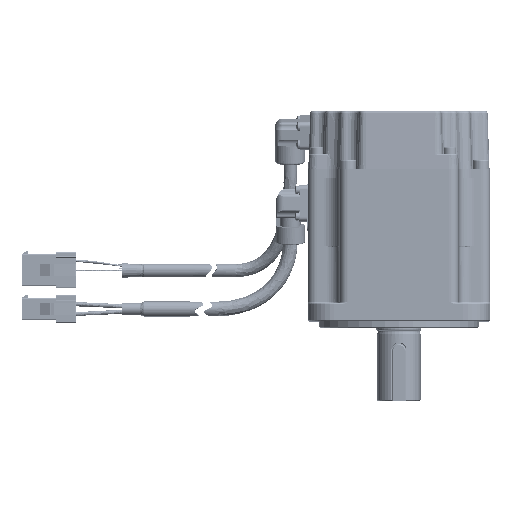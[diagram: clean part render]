
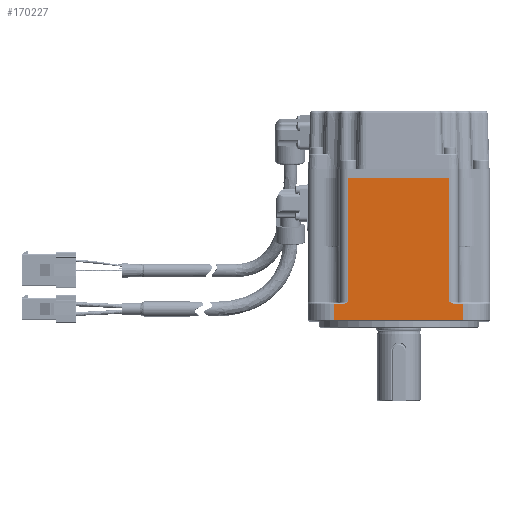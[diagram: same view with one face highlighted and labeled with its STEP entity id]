
A CAD part, top view. The second image highlights one B-rep face of the part: STEP entity #170227.
In plain terms, the highlighted planar face has unit normal (0, 0, 1) as drawn and (0, 0, -1) by its records, which use the part's own axes.
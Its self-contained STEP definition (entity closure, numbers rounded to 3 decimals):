
#1626 = CARTESIAN_POINT ( 'NONE',  ( -24.966, 10.5, -40. ) ) ;
#6138 = CARTESIAN_POINT ( 'NONE',  ( 22.137, 11.5, -40. ) ) ;
#9374 = CARTESIAN_POINT ( 'NONE',  ( 22.582, 11.262, -40. ) ) ;
#10986 = DIRECTION ( 'NONE',  ( -1., 0., 0. ) ) ;
#12206 = VERTEX_POINT ( 'NONE', #1626 ) ;
#29569 = CARTESIAN_POINT ( 'NONE',  ( 28.3, -110.437, -40. ) ) ;
#35684 = CARTESIAN_POINT ( 'NONE',  ( 24.461, 10.537, -40. ) ) ;
#36005 = VERTEX_POINT ( 'NONE', #238422 ) ;
#39457 = CARTESIAN_POINT ( 'NONE',  ( -24.71, 10.5, -40. ) ) ;
#40893 = EDGE_CURVE ( 'NONE', #68217, #319239, #189023, .T. ) ;
#42674 = CARTESIAN_POINT ( 'NONE',  ( -23.729, 10.739, -40. ) ) ;
#56738 = DIRECTION ( 'NONE',  ( 0., 1., 0. ) ) ;
#59466 = ORIENTED_EDGE ( 'NONE', *, *, #40893, .T. ) ;
#60680 = ORIENTED_EDGE ( 'NONE', *, *, #198062, .T. ) ;
#67372 = CARTESIAN_POINT ( 'NONE',  ( -22.137, 11.5, -40. ) ) ;
#68217 = VERTEX_POINT ( 'NONE', #111065 ) ;
#70935 = CARTESIAN_POINT ( 'NONE',  ( 28.3, 3.6, -40. ) ) ;
#71472 = CARTESIAN_POINT ( 'NONE',  ( -28.3, -110.437, -40. ) ) ;
#74439 = ORIENTED_EDGE ( 'NONE', *, *, #106228, .T. ) ;
#85622 = CARTESIAN_POINT ( 'NONE',  ( -23.97, 10.657, -40. ) ) ;
#86659 = FACE_OUTER_BOUND ( 'NONE', #94884, .T. ) ;
#88142 = ORIENTED_EDGE ( 'NONE', *, *, #312121, .T. ) ;
#88496 = ORIENTED_EDGE ( 'NONE', *, *, #251141, .F. ) ;
#93089 = CARTESIAN_POINT ( 'NONE',  ( -28.3, -110.437, -40. ) ) ;
#93667 = CARTESIAN_POINT ( 'NONE',  ( 28.3, 10.5, -40. ) ) ;
#94884 = EDGE_LOOP ( 'NONE', ( #88496, #88142, #167179, #59466, #277204, #199358, #323634, #74439, #298466, #60680 ) ) ;
#100884 = VERTEX_POINT ( 'NONE', #197819 ) ;
#101993 = DIRECTION ( 'NONE',  ( -1., 0., 0. ) ) ;
#104586 = LINE ( 'NONE', #155447, #136805 ) ;
#106228 = EDGE_CURVE ( 'NONE', #143524, #12206, #104586, .T. ) ;
#106456 = CARTESIAN_POINT ( 'NONE',  ( 23.97, 10.657, -40. ) ) ;
#109151 = VERTEX_POINT ( 'NONE', #153683 ) ;
#109846 = VERTEX_POINT ( 'NONE', #251126 ) ;
#111065 = CARTESIAN_POINT ( 'NONE',  ( 24.966, 10.5, -40. ) ) ;
#111840 = CARTESIAN_POINT ( 'NONE',  ( -22.582, 11.262, -40. ) ) ;
#119361 = VECTOR ( 'NONE', #136198, 1000. ) ;
#121683 = VERTEX_POINT ( 'NONE', #70935 ) ;
#123368 = EDGE_CURVE ( 'NONE', #36005, #143524, #197939, .T. ) ;
#128663 = VERTEX_POINT ( 'NONE', #249081 ) ;
#136198 = DIRECTION ( 'NONE',  ( 0., 1., 0. ) ) ;
#136758 = EDGE_CURVE ( 'NONE', #12206, #100884, #154744, .T. ) ;
#136805 = VECTOR ( 'NONE', #281927, 1000. ) ;
#139108 = PLANE ( 'NONE',  #267603 ) ;
#143524 = VERTEX_POINT ( 'NONE', #191744 ) ;
#150936 = VECTOR ( 'NONE', #170833, 1000. ) ;
#151553 = CARTESIAN_POINT ( 'NONE',  ( 22.137, 11., -40. ) ) ;
#153683 = CARTESIAN_POINT ( 'NONE',  ( -22.137, 65.9, -40. ) ) ;
#154744 = B_SPLINE_CURVE_WITH_KNOTS ( 'NONE', 3,
 ( #261326, #39457, #238338, #85622, #42674, #239942, #111840, #67372 ),
 .UNSPECIFIED., .F., .F.,
 ( 4, 2, 2, 4 ),
 ( 0., 0.001, 0.002, 0.003 ),
 .UNSPECIFIED. ) ;
#155447 = CARTESIAN_POINT ( 'NONE',  ( -22.137, 10.5, -40. ) ) ;
#160558 = CARTESIAN_POINT ( 'NONE',  ( 23.027, 11.023, -40. ) ) ;
#167179 = ORIENTED_EDGE ( 'NONE', *, *, #224172, .T. ) ;
#170227 = ADVANCED_FACE ( 'NONE', ( #86659 ), #139108, .T. ) ;
#170833 = DIRECTION ( 'NONE',  ( 1., 0., 0. ) ) ;
#180720 = LINE ( 'NONE', #29569, #119361 ) ;
#182102 = VECTOR ( 'NONE', #56738, 1000. ) ;
#186805 = CARTESIAN_POINT ( 'NONE',  ( 23.729, 10.739, -40. ) ) ;
#189023 = LINE ( 'NONE', #93667, #150936 ) ;
#191744 = CARTESIAN_POINT ( 'NONE',  ( -28.3, 10.5, -40. ) ) ;
#197647 = DIRECTION ( 'NONE',  ( 0., -1., 0. ) ) ;
#197819 = CARTESIAN_POINT ( 'NONE',  ( -22.137, 11.5, -40. ) ) ;
#197939 = LINE ( 'NONE', #71472, #266772 ) ;
#198062 = EDGE_CURVE ( 'NONE', #100884, #109151, #258762, .T. ) ;
#199358 = ORIENTED_EDGE ( 'NONE', *, *, #204622, .T. ) ;
#204622 = EDGE_CURVE ( 'NONE', #121683, #36005, #235838, .T. ) ;
#204992 = CARTESIAN_POINT ( 'NONE',  ( 28.3, 10.5, -40. ) ) ;
#212730 = CARTESIAN_POINT ( 'NONE',  ( -28.3, 3.6, -40. ) ) ;
#220660 = LINE ( 'NONE', #151553, #310096 ) ;
#221959 = CARTESIAN_POINT ( 'NONE',  ( -28.3, 65.9, -40. ) ) ;
#222698 = EDGE_CURVE ( 'NONE', #121683, #319239, #180720, .T. ) ;
#224172 = EDGE_CURVE ( 'NONE', #109846, #68217, #316139, .T. ) ;
#225830 = DIRECTION ( 'NONE',  ( 0., 1., 0. ) ) ;
#227216 = VECTOR ( 'NONE', #101993, 1000. ) ;
#235838 = LINE ( 'NONE', #212730, #239185 ) ;
#238338 = CARTESIAN_POINT ( 'NONE',  ( -24.461, 10.537, -40. ) ) ;
#238422 = CARTESIAN_POINT ( 'NONE',  ( -28.3, 3.6, -40. ) ) ;
#239014 = DIRECTION ( 'NONE',  ( -1., 0., 0. ) ) ;
#239185 = VECTOR ( 'NONE', #239014, 1000. ) ;
#239379 = DIRECTION ( 'NONE',  ( 0., 0., -1. ) ) ;
#239942 = CARTESIAN_POINT ( 'NONE',  ( -23.027, 11.023, -40. ) ) ;
#249081 = CARTESIAN_POINT ( 'NONE',  ( 22.137, 65.9, -40. ) ) ;
#251126 = CARTESIAN_POINT ( 'NONE',  ( 22.137, 11.5, -40. ) ) ;
#251141 = EDGE_CURVE ( 'NONE', #128663, #109151, #251439, .T. ) ;
#251439 = LINE ( 'NONE', #221959, #227216 ) ;
#255926 = CARTESIAN_POINT ( 'NONE',  ( 24.966, 10.5, -40. ) ) ;
#258762 = LINE ( 'NONE', #311213, #182102 ) ;
#261326 = CARTESIAN_POINT ( 'NONE',  ( -24.966, 10.5, -40. ) ) ;
#266772 = VECTOR ( 'NONE', #225830, 1000. ) ;
#267603 = AXIS2_PLACEMENT_3D ( 'NONE', #93089, #239379, #10986 ) ;
#277204 = ORIENTED_EDGE ( 'NONE', *, *, #222698, .F. ) ;
#281927 = DIRECTION ( 'NONE',  ( 1., 0., 0. ) ) ;
#285383 = CARTESIAN_POINT ( 'NONE',  ( 24.71, 10.5, -40. ) ) ;
#298466 = ORIENTED_EDGE ( 'NONE', *, *, #136758, .T. ) ;
#310096 = VECTOR ( 'NONE', #197647, 1000. ) ;
#311213 = CARTESIAN_POINT ( 'NONE',  ( -22.137, 15.7, -40. ) ) ;
#312121 = EDGE_CURVE ( 'NONE', #128663, #109846, #220660, .T. ) ;
#316139 = B_SPLINE_CURVE_WITH_KNOTS ( 'NONE', 3,
 ( #6138, #9374, #160558, #186805, #106456, #35684, #285383, #255926 ),
 .UNSPECIFIED., .F., .F.,
 ( 4, 2, 2, 4 ),
 ( 0., 0.001, 0.002, 0.003 ),
 .UNSPECIFIED. ) ;
#319239 = VERTEX_POINT ( 'NONE', #204992 ) ;
#323634 = ORIENTED_EDGE ( 'NONE', *, *, #123368, .T. ) ;
